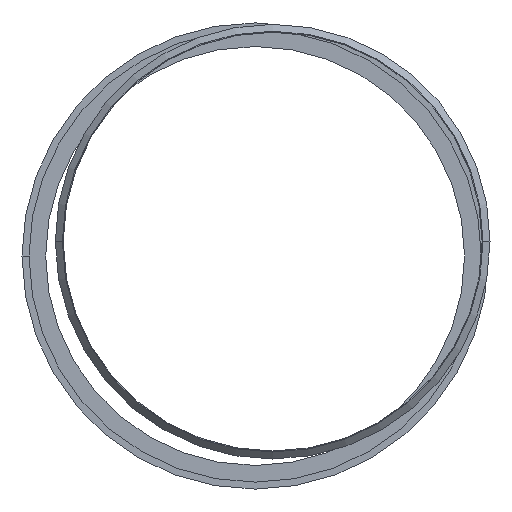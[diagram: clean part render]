
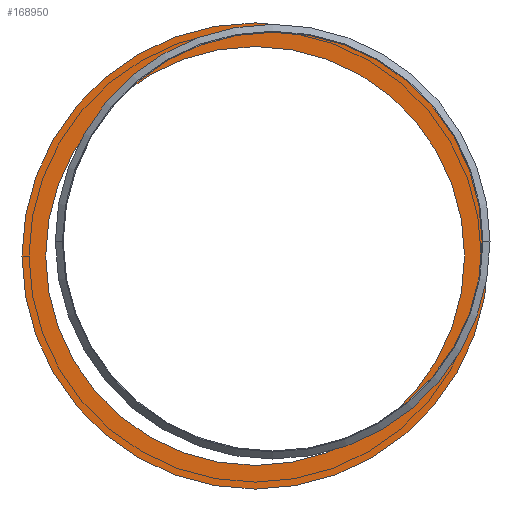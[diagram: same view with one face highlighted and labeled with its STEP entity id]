
A CAD part, top view. The second image highlights one B-rep face of the part: STEP entity #168950.
In plain terms, the highlighted planar face has unit normal (0, 0, 1).
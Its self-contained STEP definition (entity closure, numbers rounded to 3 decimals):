
#133240=CARTESIAN_POINT('',(1760.464,-2419.389,313.));
#133250=DIRECTION('',(0.,-0.,1.));
#133260=DIRECTION('',(0.,1.,0.));
#133270=AXIS2_PLACEMENT_3D('',#133240,#133250,#133260);
#133280=PLANE('',#133270);
#168650=CARTESIAN_POINT('',(1793.834,-2420.289,313.));
#168660=DIRECTION('',(0.,0.,-1.));
#168670=DIRECTION('',(-1.,0.,0.));
#168680=AXIS2_PLACEMENT_3D('',#168650,#168660,#168670);
#168690=CIRCLE('',#168680,6.65);
#168700=CARTESIAN_POINT('',(1787.184,-2420.289,313.));
#168710=VERTEX_POINT('',#168700);
#168720=CARTESIAN_POINT('',(1800.484,-2420.289,313.));
#168730=VERTEX_POINT('',#168720);
#168740=EDGE_CURVE('',#168710,#168730,#168690,.T.);
#168750=ORIENTED_EDGE('',*,*,#168740,.F.);
#168760=EDGE_CURVE('',#168730,#168710,#168690,.T.);
#168770=ORIENTED_EDGE('',*,*,#168760,.F.);
#168780=EDGE_LOOP('',(#168770,#168750));
#168790=FACE_OUTER_BOUND('',#168780,.T.);
#168800=CARTESIAN_POINT('',(1793.834,-2420.289,313.));
#168810=DIRECTION('',(0.,0.,-1.));
#168820=DIRECTION('',(-1.,0.,0.));
#168830=AXIS2_PLACEMENT_3D('',#168800,#168810,#168820);
#168840=CIRCLE('',#168830,5.975);
#168850=CARTESIAN_POINT('',(1787.859,-2420.289,313.));
#168860=VERTEX_POINT('',#168850);
#168870=CARTESIAN_POINT('',(1799.809,-2420.289,313.));
#168880=VERTEX_POINT('',#168870);
#168890=EDGE_CURVE('',#168860,#168880,#168840,.T.);
#168900=ORIENTED_EDGE('',*,*,#168890,.T.);
#168910=EDGE_CURVE('',#168880,#168860,#168840,.T.);
#168920=ORIENTED_EDGE('',*,*,#168910,.T.);
#168930=EDGE_LOOP('',(#168920,#168900));
#168940=FACE_BOUND('',#168930,.T.);
#168950=ADVANCED_FACE('',(#168790,#168940),#133280,.T.);
